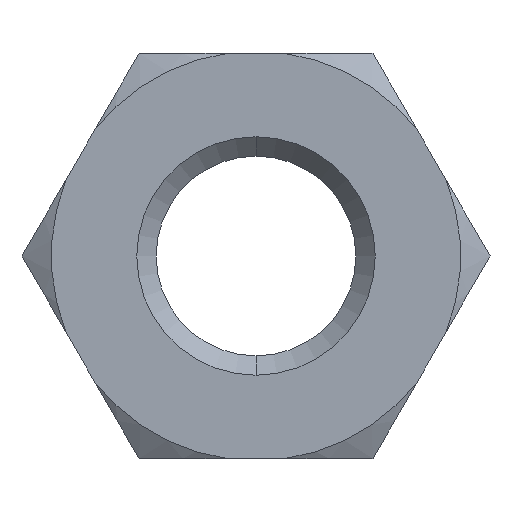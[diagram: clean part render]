
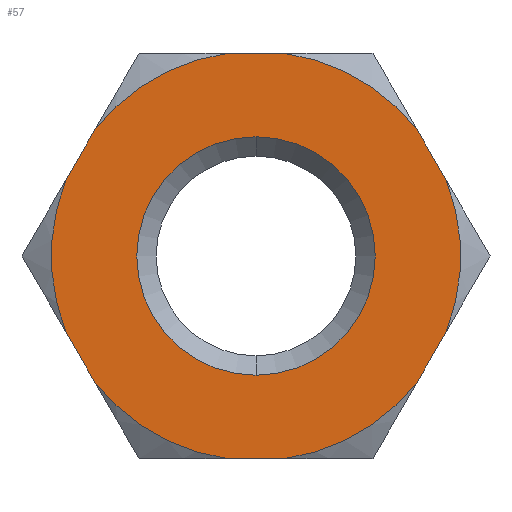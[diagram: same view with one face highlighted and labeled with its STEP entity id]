
A CAD part, left-side view. The second image highlights one B-rep face of the part: STEP entity #57.
In plain terms, the highlighted planar face has unit normal (-1, 0, 0).
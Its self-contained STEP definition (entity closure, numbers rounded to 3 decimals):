
#51=FACE_BOUND('',#109,.F.);
#57=ADVANCED_FACE('',(#51,#83),#273,.T.);
#83=FACE_OUTER_BOUND('',#110,.F.);
#109=EDGE_LOOP('',(#165,#166));
#110=EDGE_LOOP('',(#167,#168,#169,#170,#171,#172,#173,#174,#175,#176,#177,
#178));
#165=ORIENTED_EDGE('',*,*,#396,.T.);
#166=ORIENTED_EDGE('',*,*,#397,.T.);
#167=ORIENTED_EDGE('',*,*,#445,.T.);
#168=ORIENTED_EDGE('',*,*,#420,.F.);
#169=ORIENTED_EDGE('',*,*,#440,.T.);
#170=ORIENTED_EDGE('',*,*,#425,.F.);
#171=ORIENTED_EDGE('',*,*,#441,.T.);
#172=ORIENTED_EDGE('',*,*,#424,.F.);
#173=ORIENTED_EDGE('',*,*,#442,.T.);
#174=ORIENTED_EDGE('',*,*,#421,.F.);
#175=ORIENTED_EDGE('',*,*,#443,.T.);
#176=ORIENTED_EDGE('',*,*,#423,.F.);
#177=ORIENTED_EDGE('',*,*,#444,.T.);
#178=ORIENTED_EDGE('',*,*,#422,.F.);
#273=PLANE('',#552);
#328=LINE('',#906,#352);
#329=LINE('',#907,#353);
#330=LINE('',#908,#354);
#331=LINE('',#909,#355);
#332=LINE('',#910,#356);
#333=LINE('',#911,#357);
#352=VECTOR('',#615,2.41);
#353=VECTOR('',#616,2.409);
#354=VECTOR('',#617,2.409);
#355=VECTOR('',#618,2.41);
#356=VECTOR('',#619,2.409);
#357=VECTOR('',#620,2.409);
#396=EDGE_CURVE('',#523,#522,#464,.T.);
#397=EDGE_CURVE('',#522,#523,#465,.T.);
#420=EDGE_CURVE('',#503,#495,#472,.T.);
#421=EDGE_CURVE('',#497,#494,#473,.T.);
#422=EDGE_CURVE('',#493,#492,#474,.T.);
#423=EDGE_CURVE('',#491,#498,#475,.T.);
#424=EDGE_CURVE('',#490,#489,#476,.T.);
#425=EDGE_CURVE('',#488,#500,#477,.T.);
#440=EDGE_CURVE('',#503,#500,#328,.T.);
#441=EDGE_CURVE('',#488,#489,#329,.T.);
#442=EDGE_CURVE('',#490,#494,#330,.T.);
#443=EDGE_CURVE('',#497,#498,#331,.T.);
#444=EDGE_CURVE('',#491,#492,#332,.T.);
#445=EDGE_CURVE('',#493,#495,#333,.T.);
#464=CIRCLE('',#530,5.);
#465=CIRCLE('',#531,5.);
#472=CIRCLE('',#538,8.585);
#473=CIRCLE('',#539,8.585);
#474=CIRCLE('',#540,8.585);
#475=CIRCLE('',#541,8.585);
#476=CIRCLE('',#542,8.585);
#477=CIRCLE('',#543,8.585);
#488=VERTEX_POINT('',#702);
#489=VERTEX_POINT('',#703);
#490=VERTEX_POINT('',#704);
#491=VERTEX_POINT('',#705);
#492=VERTEX_POINT('',#706);
#493=VERTEX_POINT('',#707);
#494=VERTEX_POINT('',#708);
#495=VERTEX_POINT('',#709);
#497=VERTEX_POINT('',#711);
#498=VERTEX_POINT('',#712);
#500=VERTEX_POINT('',#714);
#503=VERTEX_POINT('',#717);
#522=VERTEX_POINT('',#736);
#523=VERTEX_POINT('',#737);
#530=AXIS2_PLACEMENT_3D('',#742,#581,#582);
#531=AXIS2_PLACEMENT_3D('',#743,#583,#584);
#538=AXIS2_PLACEMENT_3D('',#846,#597,#598);
#539=AXIS2_PLACEMENT_3D('',#847,#599,#600);
#540=AXIS2_PLACEMENT_3D('',#848,#601,#602);
#541=AXIS2_PLACEMENT_3D('',#849,#603,#604);
#542=AXIS2_PLACEMENT_3D('',#850,#605,#606);
#543=AXIS2_PLACEMENT_3D('',#851,#607,#608);
#552=AXIS2_PLACEMENT_3D('',#932,#649,#650);
#581=DIRECTION('',(-1.,0.,0.));
#582=DIRECTION('',(0.,0.,1.));
#583=DIRECTION('',(-1.,0.,0.));
#584=DIRECTION('',(0.,0.,-1.));
#597=DIRECTION('',(-1.,0.,0.));
#598=DIRECTION('',(0.,-0.14,-0.99));
#599=DIRECTION('',(-1.,0.,0.));
#600=DIRECTION('',(0.,0.14,0.99));
#601=DIRECTION('',(-1.,0.,0.));
#602=DIRECTION('',(0.,-0.928,-0.373));
#603=DIRECTION('',(-1.,0.,0.));
#604=DIRECTION('',(0.,-0.787,0.617));
#605=DIRECTION('',(-1.,0.,0.));
#606=DIRECTION('',(0.,0.928,0.373));
#607=DIRECTION('',(-1.,0.,0.));
#608=DIRECTION('',(0.,0.787,-0.617));
#615=DIRECTION('',(0.,1.,0.));
#616=DIRECTION('',(0.,0.5,0.866));
#617=DIRECTION('',(0.,-0.5,0.866));
#618=DIRECTION('',(0.,-1.,0.));
#619=DIRECTION('',(0.,-0.5,-0.866));
#620=DIRECTION('',(0.,0.5,-0.866));
#649=DIRECTION('',(-1.,0.,0.));
#650=DIRECTION('',(0.,-1.,0.));
#702=CARTESIAN_POINT('',(1015.175,551.011,-413.42));
#703=CARTESIAN_POINT('',(1015.175,552.216,-411.333));
#704=CARTESIAN_POINT('',(1015.175,552.216,-404.92));
#705=CARTESIAN_POINT('',(1015.175,537.493,-402.833));
#706=CARTESIAN_POINT('',(1015.175,536.289,-404.92));
#707=CARTESIAN_POINT('',(1015.175,536.289,-411.333));
#708=CARTESIAN_POINT('',(1015.175,551.011,-402.833));
#709=CARTESIAN_POINT('',(1015.175,537.493,-413.42));
#711=CARTESIAN_POINT('',(1015.175,545.457,-399.626));
#712=CARTESIAN_POINT('',(1015.175,543.047,-399.626));
#714=CARTESIAN_POINT('',(1015.175,545.457,-416.626));
#717=CARTESIAN_POINT('',(1015.175,543.047,-416.626));
#736=CARTESIAN_POINT('',(1015.175,544.252,-413.126));
#737=CARTESIAN_POINT('',(1015.175,544.252,-403.126));
#742=CARTESIAN_POINT('',(1015.175,544.252,-408.126));
#743=CARTESIAN_POINT('',(1015.175,544.252,-408.126));
#846=CARTESIAN_POINT('',(1015.175,544.252,-408.126));
#847=CARTESIAN_POINT('',(1015.175,544.252,-408.126));
#848=CARTESIAN_POINT('',(1015.175,544.252,-408.126));
#849=CARTESIAN_POINT('',(1015.175,544.252,-408.126));
#850=CARTESIAN_POINT('',(1015.175,544.252,-408.126));
#851=CARTESIAN_POINT('',(1015.175,544.252,-408.126));
#906=CARTESIAN_POINT('',(1015.175,543.047,-416.626));
#907=CARTESIAN_POINT('',(1015.175,551.011,-413.419));
#908=CARTESIAN_POINT('',(1015.175,552.216,-404.919));
#909=CARTESIAN_POINT('',(1015.175,545.457,-399.626));
#910=CARTESIAN_POINT('',(1015.175,537.493,-402.833));
#911=CARTESIAN_POINT('',(1015.175,536.289,-411.333));
#932=CARTESIAN_POINT('',(1015.175,554.264,-416.823));
